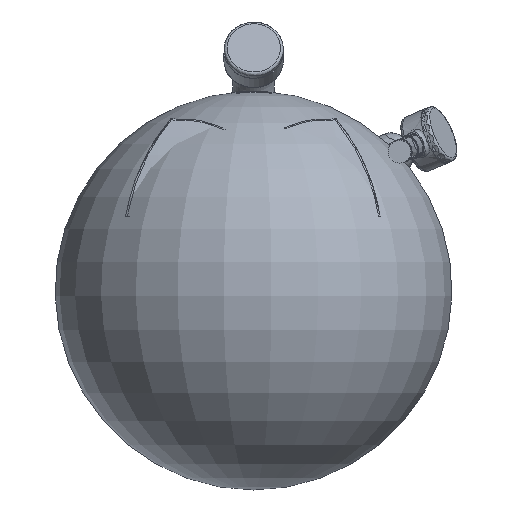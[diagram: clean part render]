
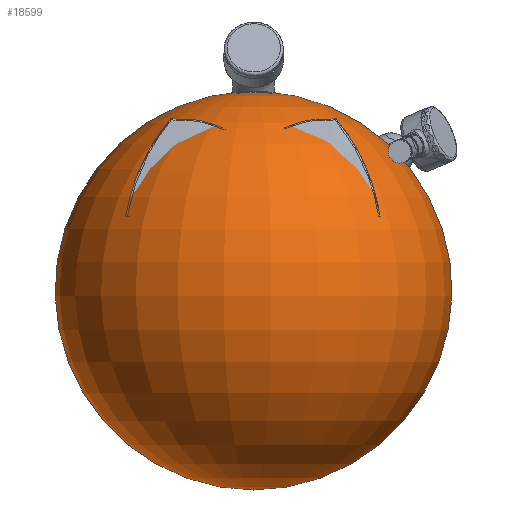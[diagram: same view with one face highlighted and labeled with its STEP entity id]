
A CAD part, front view. The second image highlights one B-rep face of the part: STEP entity #18599.
In plain terms, the highlighted toroidal (fillet/blend) face has major radius 0.825 mm and minor radius 202 mm.
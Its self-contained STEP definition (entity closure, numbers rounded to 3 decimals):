
#4334 = VERTEX_POINT ( 'NONE', #19995 ) ;
#7529 = CIRCLE ( 'NONE', #21324, 21.452 ) ;
#7636 = TOROIDAL_SURFACE ( 'NONE', #19117, 0.825, 202. ) ;
#12159 = ORIENTED_EDGE ( 'NONE', *, *, #33972, .T. ) ;
#12779 = DIRECTION ( 'NONE',  ( 0., 0., 1. ) ) ;
#16586 = DIRECTION ( 'NONE',  ( 0., 0., -1. ) ) ;
#18599 = ADVANCED_FACE ( 'NONE', ( #23562 ), #7636, .T. ) ;
#19117 = AXIS2_PLACEMENT_3D ( 'NONE', #32932, #16586, #19332 ) ;
#19130 = EDGE_LOOP ( 'NONE', ( #12159 ) ) ;
#19332 = DIRECTION ( 'NONE',  ( -0.728, 0.686, 0. ) ) ;
#19995 = CARTESIAN_POINT ( 'NONE',  ( -15.048, -411.304, 124.826 ) ) ;
#21324 = AXIS2_PLACEMENT_3D ( 'NONE', #29134, #12779, #31846 ) ;
#23562 = FACE_OUTER_BOUND ( 'NONE', #19130, .T. ) ;
#29134 = CARTESIAN_POINT ( 'NONE',  ( 0.564, -426.016, 124.826 ) ) ;
#31846 = DIRECTION ( 'NONE',  ( -0.728, 0.686, 0. ) ) ;
#32932 = CARTESIAN_POINT ( 'NONE',  ( 0.564, -426.016, -76.118 ) ) ;
#33972 = EDGE_CURVE ( 'NONE', #4334, #4334, #7529, .T. ) ;
